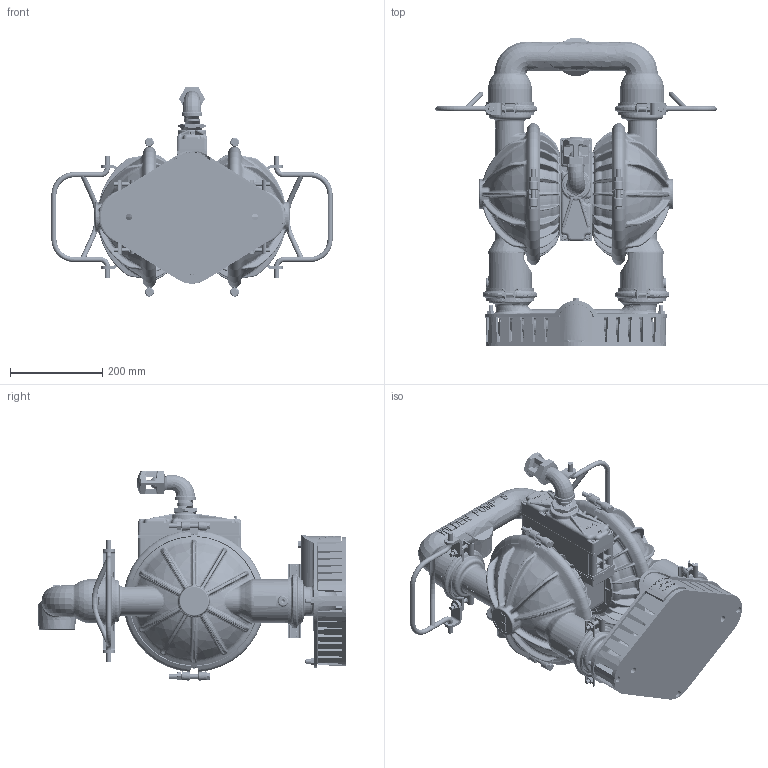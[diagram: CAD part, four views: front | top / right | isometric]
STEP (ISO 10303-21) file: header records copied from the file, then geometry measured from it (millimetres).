
FILE_DESCRIPTION((''),'2;1');
FILE_NAME('PS08_STALLION_AL_DC_C_SW0002','2015-07-16T',('nathan.hale'),(''),'PRO/ENGINEER BY PARAMETRIC TECHNOLOGY CORPORATION, 2013320','PRO/ENGINEER BY PARAMETRIC TECHNOLOGY CORPORATION, 2013320','');
FILE_SCHEMA(('CONFIG_CONTROL_DESIGN'));
Products named in the file (1): PS08_STALLION_AL_DC_C_SW0002
Bounding box: 611.11 x 670.84 x 454.56 mm (x, y, z)
Volume: 9790006.2 mm3; surface area: 2722357.3 mm2
Topology: 18 solids, 21 shells, 19305 faces, 50656 edges, 31956 vertices
Faces by surface type: plane 10973, bspline 3481, cylinder 1857, torus 1215, cone 1113, sphere 533, extrusion 133
Entity records: 1282987 total; most frequent: CARTESIAN_POINT 838238, ORIENTED_EDGE 101168, DIRECTION 79711, EDGE_CURVE 50584, VERTEX_POINT 31956, VECTOR 29327, LINE 29194, AXIS2_PLACEMENT_3D 25192
